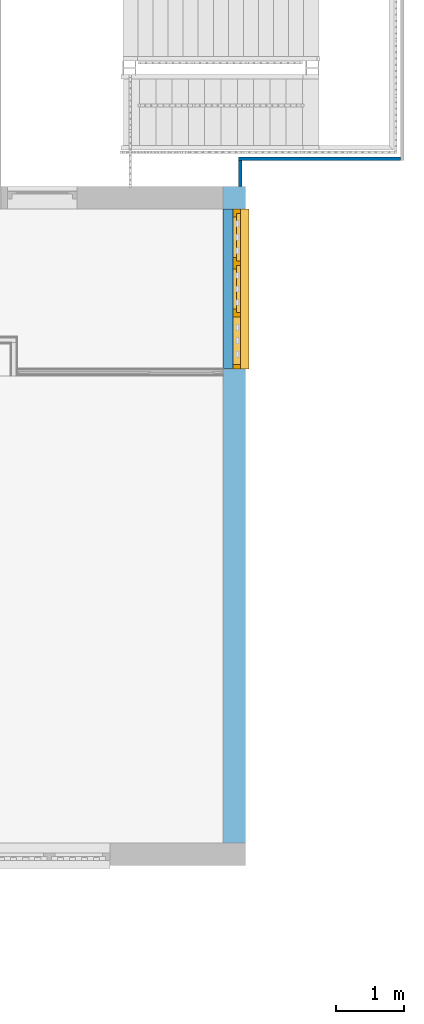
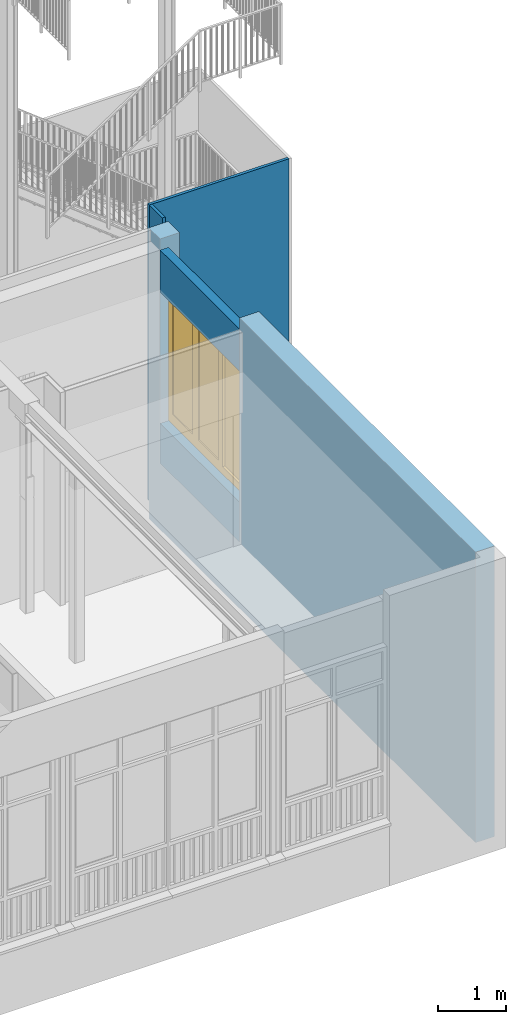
# One storey, part 96 of 135: 4 walls, 1 window, 1 opening, plus 1 element that does not belong to this part.
"""IFC2X3 building model written with IfcOpenShell, lengths in millimetres."""

from ifc_helpers import new_model, entity, si_unit, converted_unit, derived_unit, money_unit, direction, frame, origin_with_axes, place, context, subcontext, project, spatial, open_shell, faceted_brep, surface_model, material, type_object, element, fill, save


model = new_model("IFC2X3")

# Units and contexts
model_context = context("Model", 3, precision=0.01, world=origin_with_axes(), true_north=direction((0.0, 1.0)))
body_context = subcontext(model_context, "Body", "Model", "MODEL_VIEW")
ifc_project = project(units=[si_unit("LENGTHUNIT", "METRE", prefix="MILLI"), si_unit("AREAUNIT", "SQUARE_METRE"), si_unit("VOLUMEUNIT", "CUBIC_METRE"), converted_unit("PLANEANGLEUNIT", "DEGREE", entity("IfcPlaneAngleMeasure", 0.0174532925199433), si_unit("PLANEANGLEUNIT", "RADIAN"), dimensions=[0, 0, 0, 0, 0, 0, 0]), money_unit("EUR"), converted_unit("TIMEUNIT", "Year", entity("IfcTimeMeasure", 31557600.0), si_unit("TIMEUNIT", "SECOND"), dimensions=[0, 0, 1, 0, 0, 0, 0]), si_unit("MASSUNIT", "GRAM", prefix="KILO"), si_unit("THERMODYNAMICTEMPERATUREUNIT", "DEGREE_CELSIUS"), si_unit("LUMINOUSINTENSITYUNIT", "LUMEN"), si_unit("ENERGYUNIT", "JOULE", prefix="MEGA"), derived_unit("THERMALCONDUCTANCEUNIT", [(si_unit("POWERUNIT", "WATT"), 1), (si_unit("LENGTHUNIT", "METRE"), -1), (si_unit("THERMODYNAMICTEMPERATUREUNIT", "KELVIN"), -1)]), derived_unit("SPECIFICHEATCAPACITYUNIT", [(si_unit("ENERGYUNIT", "JOULE"), 1), (si_unit("MASSUNIT", "GRAM", prefix="KILO"), -1), (si_unit("THERMODYNAMICTEMPERATUREUNIT", "KELVIN"), -1)]), derived_unit("MASSDENSITYUNIT", [(si_unit("MASSUNIT", "GRAM", prefix="KILO"), 1), (si_unit("VOLUMEUNIT", "CUBIC_METRE"), -1)])], contexts=[model_context])

# Site, building, storey
site_placement = place(None, origin_with_axes())
site = spatial("IfcSite", under=ifc_project, at=site_placement, Name="Site", CompositionType="ELEMENT")
building_placement = place(site_placement, origin_with_axes())
building = spatial("IfcBuilding", under=site, at=building_placement, Name="Naam gebouw", CompositionType="ELEMENT")
storey_placement = place(building_placement, origin_with_axes())
storey = spatial("IfcBuildingStorey", under=building, at=storey_placement, Name="Begane grond N", CompositionType="ELEMENT", Elevation=0.0)

# Wall, opening, window
ifc_material_1 = material(Name="ALG - CONSTRUCTIEF")
wall_type_1 = type_object("IfcWallType", Name="ALG - CONSTRUCTIEF 330", PredefinedType="NOTDEFINED")
wall_1_placement = place(storey_placement, frame((57599.99999999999, 20655.9124251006, -1200.0), z_axis=(0.0, 0.0, 1.0), x_axis=(0.0, -1.0, 0.0)))
wall_1 = element("IfcWall", 1, at=wall_1_placement, inside=storey, type_object=wall_type_1, material=ifc_material_1, Name="_Wand-x", context=body_context, shape_type="Brep", body=[
    faceted_brep([(329.9999999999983, 225.0000000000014, 1200.000000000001), (329.9999999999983, 225.0000000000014, 1120.000000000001), (329.9999999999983, 329.9999999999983, 1120.000000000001), (329.9999999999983, 329.9999999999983, 1200.000000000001), (329.9999999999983, 329.9999999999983, 5250.000000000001), (329.9999999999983, 0.0, 5250.000000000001), (329.9999999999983, 0.0, 1200.000000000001), (2684.999999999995, 225.0000000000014, 1200.000000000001), (2684.999999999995, 225.0000000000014, 1120.000000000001), (2684.999999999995, 329.9999999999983, 1120.000000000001), (2684.999999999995, 329.9999999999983, 1200.000000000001), (2684.999999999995, 329.9999999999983, 5250.000000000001), (9664.999999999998, 329.9999999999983, 5250.000000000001), (9664.999999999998, 329.9999999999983, 0.0), (0.0, 329.9999999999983, 0.0), (0.0, 329.9999999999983, 5250.000000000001), (0.0, 0.0, 5250.000000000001), (9664.999999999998, 0.0, 5250.000000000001), (2684.999999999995, 0.0, 5250.000000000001), (2684.999999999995, 0.0, 1200.000000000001), (0.0, 0.0, 0.0), (9664.999999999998, 0.0, 0.0)], [[[0, 1, 2, 3, 4, 5, 6]], [[0, 7, 8, 1]], [[9, 2, 1, 8]], [[9, 10, 11, 12, 13, 14, 15, 4, 3, 2]], [[4, 15, 16, 5]], [[17, 18, 19, 6, 5, 16, 20, 21]], [[7, 0, 6, 19]], [[10, 9, 8, 7, 19, 18, 11]], [[17, 12, 11, 18]], [[12, 17, 21, 13]], [[20, 14, 13, 21]], [[20, 16, 15, 14]]]),
])
opening_placement = place(wall_1_placement, frame((1507.499999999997, 0.0, 1200.000000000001), z_axis=(0.0, 0.0, 1.0), x_axis=(1.0, 0.0, 0.0)))
opening = element("IfcOpeningElement", 2, at=opening_placement, cuts=wall_1, Name="_Merk-009", context=body_context, shape_type="Brep", body=[
    faceted_brep([(1177.499999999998, 259.999999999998, 0.0), (1177.499999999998, 330.999999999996, 0.0), (1177.499999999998, 330.999999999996, 4090.0), (1177.499999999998, 259.999999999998, 4090.0), (1177.499999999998, -0.9999999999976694, 4090.0), (1177.499999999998, -0.9999999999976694, 0.0), (1177.499999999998, 225.0000000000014, 0.0), (1177.499999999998, 225.0000000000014, -80.00000000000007), (1177.499999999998, 330.999999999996, -80.00000000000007), (-1177.499999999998, 330.999999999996, 0.0), (-1177.499999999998, 330.999999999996, 4090.0), (-1177.499999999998, 330.999999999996, -80.00000000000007), (-1177.499999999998, 259.999999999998, 4090.0), (-1177.499999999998, -0.9999999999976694, 4090.0), (-1177.499999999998, -0.9999999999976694, 0.0), (-1177.499999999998, 225.0000000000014, 0.0), (-1177.499999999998, 225.0000000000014, -80.00000000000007), (-1177.499999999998, 259.999999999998, 0.0)], [[[0, 1, 2, 3]], [[1, 0, 3, 4, 5, 6, 7, 8]], [[9, 10, 2, 1, 8, 11]], [[3, 2, 10, 12, 13, 4]], [[13, 14, 5, 4]], [[15, 6, 5, 14]], [[6, 15, 16, 7]], [[7, 16, 11, 8]], [[9, 17, 12, 10]], [[17, 9, 11, 16, 15, 14, 13, 12]]]),
])
window_style = type_object("IfcWindowStyle", Name="R3 bl ol 26", ConstructionType="NOTDEFINED", OperationType="USERDEFINED", ParameterTakesPrecedence=False, Sizeable=False)
window_placement = place(opening_placement, frame((1177.499999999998, 0.0, 0.0), z_axis=(0.0, 0.0, 1.0), x_axis=(-1.0, 0.0, 0.0)))
window = element("IfcWindow", 3, at=window_placement, inside=storey, type_object=window_style, Name="_Merk-009", ObjectType="WINDOW", OverallHeight=3090.0, OverallWidth=2355.0, context=body_context, shape_type="SurfaceModel", body=[
    faceted_brep([(2354.999999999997, -225.0000000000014, 0.0), (0.0, -225.0000000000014, 0.0), (0.0, -240.000000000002, 0.0), (2354.999999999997, -240.000000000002, 0.0), (2354.999999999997, -225.0000000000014, -80.00000000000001), (0.0, -225.0000000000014, -79.99999999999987), (0.0, -345.7812500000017, -79.9999999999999), (0.0, -347.1209959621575, -74.9999999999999), (0.0, -350.7812499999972, -71.33974596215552), (0.0, -355.7812499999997, -69.99999999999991), (0.0, -360.7812500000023, -71.33974596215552), (0.0, -364.4415040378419, -74.9999999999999), (0.0, -365.7812499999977, -79.9999999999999), (0.0, -380.0000000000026, -79.9999999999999), (0.0, -380.0000000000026, -34.68577729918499), (0.0, -240.000000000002, -9.999999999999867), (2354.999999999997, -240.000000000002, -10.00000000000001), (2354.999999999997, -380.0000000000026, -34.68577729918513), (2354.999999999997, -380.0000000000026, -80.00000000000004), (2354.999999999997, -365.7812499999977, -80.00000000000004), (2354.999999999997, -364.441504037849, -75.00000000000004), (2354.999999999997, -360.7812500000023, -71.33974596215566), (2354.999999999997, -355.7812499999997, -70.00000000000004), (2354.999999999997, -350.7812500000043, -71.33974596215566), (2354.999999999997, -347.1209959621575, -75.00000000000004), (2354.999999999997, -345.7812500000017, -80.00000000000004)], [[[0, 1, 2, 3]], [[4, 5, 1, 0]], [[1, 5, 6, 7, 8, 9, 10, 11, 12, 13, 14, 15, 2]], [[3, 2, 15, 16]], [[0, 3, 16, 17, 18, 19, 20, 21, 22, 23, 24, 25, 4]], [[25, 6, 5, 4]], [[24, 7, 6, 25]], [[23, 8, 7, 24]], [[22, 9, 8, 23]], [[21, 10, 9, 22]], [[20, 11, 10, 21]], [[19, 12, 11, 20]], [[18, 13, 12, 19]], [[17, 14, 13, 18]], [[16, 15, 14, 17]]]),
    faceted_brep([(2305.0, -146.0000000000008, 3023.0), (2305.0, -200.0000000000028, 3023.0), (2287.999999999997, -200.0000000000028, 3023.0), (2287.999999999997, -260.0000000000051, 3023.0), (2354.999999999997, -260.0000000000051, 3023.0), (2354.999999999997, -146.0000000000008, 3023.0), (2305.0, -146.0000000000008, 833.0000000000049), (2305.0, -200.0000000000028, 833.0000000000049), (2287.999999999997, -200.0000000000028, 850.0000000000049), (2287.999999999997, -200.0000000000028, 833.0000000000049), (2287.999999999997, -259.999999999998, 850.0000000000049), (2287.999999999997, -259.999999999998, 783.0000000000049), (2287.999999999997, -259.999999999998, 66.99999999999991), (2354.999999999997, -259.999999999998, 66.99999999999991), (2354.999999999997, -146.0000000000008, 66.99999999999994), (2287.999999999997, -146.0000000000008, 66.99999999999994), (2287.999999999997, -146.0000000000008, 783.0000000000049), (2287.999999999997, -146.0000000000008, 833.0000000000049)], [[[0, 1, 2, 3, 4, 5]], [[1, 0, 6, 7]], [[8, 2, 1, 7, 9]], [[2, 8, 10, 3]], [[10, 11, 12, 13, 4, 3]], [[5, 4, 13, 14]], [[6, 0, 5, 14, 15, 16, 17]], [[6, 17, 9, 7]], [[9, 17, 16, 11, 10, 8]], [[15, 12, 11, 16]], [[14, 13, 12, 15]]]),
    faceted_brep([(829.6666666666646, -200.0000000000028, 3023.0), (812.6666666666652, -200.0000000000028, 3023.0), (812.6666666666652, -146.0000000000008, 3023.0), (762.6666666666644, -146.0000000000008, 3023.0), (762.6666666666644, -259.999999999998, 3023.0), (829.6666666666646, -259.999999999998, 3023.0), (829.6666666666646, -200.0000000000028, 850.0000000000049), (829.6666666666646, -200.0000000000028, 833.0000000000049), (812.6666666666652, -200.0000000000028, 833.0000000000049), (812.6666666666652, -146.0000000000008, 833.0000000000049), (829.6666666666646, -146.0000000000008, 833.0000000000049), (829.6666666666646, -146.0000000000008, 783.0000000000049), (829.6666666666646, -146.0000000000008, 66.99999999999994), (762.6666666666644, -146.0000000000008, 66.99999999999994), (762.6666666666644, -146.0000000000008, 783.0000000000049), (762.6666666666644, -146.0000000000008, 850.0000000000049), (762.6666666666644, -259.999999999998, 850.0000000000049), (829.6666666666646, -259.999999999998, 783.0000000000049), (829.6666666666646, -259.999999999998, 850.0000000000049), (762.6666666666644, -259.999999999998, 783.0000000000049), (762.6666666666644, -259.999999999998, 66.99999999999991), (829.6666666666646, -259.999999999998, 66.99999999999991)], [[[0, 1, 2, 3, 4, 5]], [[1, 0, 6, 7, 8]], [[9, 2, 1, 8]], [[9, 10, 11, 12, 13, 14, 15, 3, 2]], [[15, 16, 4, 3]], [[17, 18, 5, 4, 16, 19, 20, 21]], [[6, 0, 5, 18]], [[7, 6, 18, 17, 11, 10]], [[10, 9, 8, 7]], [[11, 17, 21, 12]], [[12, 21, 20, 13]], [[13, 20, 19, 14]], [[14, 19, 16, 15]]]),
    faceted_brep([(1592.333333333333, -200.0000000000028, 3023.0), (1575.333333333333, -200.0000000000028, 3023.0), (1575.333333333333, -146.0000000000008, 3023.0), (1542.333333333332, -146.0000000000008, 3023.0), (1542.333333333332, -200.0000000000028, 3023.0), (1525.333333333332, -200.0000000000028, 3023.0), (1525.333333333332, -259.999999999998, 3023.0), (1592.333333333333, -259.999999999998, 3023.0), (1592.333333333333, -200.0000000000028, 850.0000000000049), (1592.333333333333, -200.0000000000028, 833.0000000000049), (1575.333333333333, -200.0000000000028, 833.0000000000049), (1575.333333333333, -146.0000000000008, 833.0000000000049), (1592.333333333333, -146.0000000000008, 833.0000000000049), (1592.333333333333, -146.0000000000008, 783.0000000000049), (1592.333333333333, -146.0000000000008, 66.99999999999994), (1525.333333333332, -146.0000000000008, 66.99999999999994), (1525.333333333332, -146.0000000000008, 783.0000000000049), (1525.333333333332, -146.0000000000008, 833.0000000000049), (1542.333333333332, -146.0000000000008, 833.0000000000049), (1542.333333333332, -200.0000000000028, 833.0000000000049), (1525.333333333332, -200.0000000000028, 850.0000000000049), (1525.333333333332, -200.0000000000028, 833.0000000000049), (1525.333333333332, -259.999999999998, 850.0000000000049), (1525.333333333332, -259.999999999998, 783.0000000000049), (1525.333333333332, -259.999999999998, 66.99999999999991), (1592.333333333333, -259.999999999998, 66.99999999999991), (1592.333333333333, -259.999999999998, 783.0000000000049), (1592.333333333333, -259.999999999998, 850.0000000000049)], [[[0, 1, 2, 3, 4, 5, 6, 7]], [[1, 0, 8, 9, 10]], [[11, 2, 1, 10]], [[11, 12, 13, 14, 15, 16, 17, 18, 3, 2]], [[4, 3, 18, 19]], [[20, 5, 4, 19, 21]], [[5, 20, 22, 6]], [[7, 6, 22, 23, 24, 25, 26, 27]], [[8, 0, 7, 27]], [[9, 8, 27, 26, 13, 12]], [[12, 11, 10, 9]], [[13, 26, 25, 14]], [[14, 25, 24, 15]], [[15, 24, 23, 16]], [[21, 17, 16, 23, 22, 20]], [[18, 17, 21, 19]]]),
    faceted_brep([(1525.333333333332, -200.0000000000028, 850.0000000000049), (829.6666666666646, -200.0000000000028, 850.0000000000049), (829.6666666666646, -259.999999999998, 850.0000000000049), (1525.333333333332, -259.999999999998, 850.0000000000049), (829.6666666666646, -200.0000000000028, 833.0000000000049), (1525.333333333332, -200.0000000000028, 833.0000000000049), (829.6666666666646, -146.0000000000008, 833.0000000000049), (829.6666666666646, -146.0000000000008, 783.0000000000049), (829.6666666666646, -259.999999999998, 783.0000000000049), (1525.333333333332, -259.999999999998, 783.0000000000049), (1525.333333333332, -146.0000000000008, 783.0000000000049), (1525.333333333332, -146.0000000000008, 833.0000000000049)], [[[0, 1, 2, 3]], [[4, 1, 0, 5]], [[4, 6, 7, 8, 2, 1]], [[2, 8, 9, 3]], [[5, 0, 3, 9, 10, 11]], [[11, 6, 4, 5]], [[6, 11, 10, 7]], [[10, 9, 8, 7]]]),
    faceted_brep([(2287.999999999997, -200.0000000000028, 850.0000000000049), (1592.333333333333, -200.0000000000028, 850.0000000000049), (1592.333333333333, -259.999999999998, 850.0000000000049), (2287.999999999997, -259.999999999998, 850.0000000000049), (1592.333333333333, -200.0000000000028, 833.0000000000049), (2287.999999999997, -200.0000000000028, 833.0000000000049), (1592.333333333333, -146.0000000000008, 833.0000000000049), (1592.333333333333, -146.0000000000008, 783.0000000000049), (1592.333333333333, -259.999999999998, 783.0000000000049), (2287.999999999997, -259.999999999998, 783.0000000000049), (2287.999999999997, -146.0000000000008, 783.0000000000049), (2287.999999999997, -146.0000000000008, 833.0000000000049)], [[[0, 1, 2, 3]], [[4, 1, 0, 5]], [[4, 6, 7, 8, 2, 1]], [[9, 3, 2, 8]], [[5, 0, 3, 9, 10, 11]], [[11, 6, 4, 5]], [[6, 11, 10, 7]], [[10, 9, 8, 7]]]),
    faceted_brep([(2305.0, -146.0000000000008, 3023.0), (2305.0, -146.0000000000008, 3040.0), (1575.333333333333, -146.0000000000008, 3040.0), (1575.333333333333, -146.0000000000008, 3023.0), (1542.333333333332, -146.0000000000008, 3023.0), (1542.333333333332, -146.0000000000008, 3040.0), (812.6666666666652, -146.0000000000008, 3040.0), (812.6666666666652, -146.0000000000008, 3023.0), (762.6666666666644, -146.0000000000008, 3023.0), (67.00000000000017, -146.0000000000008, 3023.0), (0.0, -146.0000000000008, 3023.0), (0.0, -146.0000000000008, 3090.0), (2354.999999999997, -146.0000000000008, 3090.0), (2354.999999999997, -146.0000000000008, 3023.0), (2305.0, -200.0000000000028, 3023.0), (2305.0, -200.0000000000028, 3040.0), (1575.333333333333, -200.0000000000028, 3040.0), (1575.333333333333, -200.0000000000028, 3023.0), (1592.333333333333, -200.0000000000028, 3023.0), (1592.333333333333, -259.999999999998, 3023.0), (1525.333333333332, -259.999999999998, 3023.0), (1525.333333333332, -200.0000000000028, 3023.0), (1542.333333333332, -200.0000000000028, 3023.0), (1542.333333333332, -200.0000000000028, 3040.0), (812.6666666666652, -200.0000000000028, 3040.0), (812.6666666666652, -200.0000000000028, 3023.0), (829.6666666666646, -200.0000000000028, 3023.0), (829.6666666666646, -259.999999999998, 3023.0), (762.6666666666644, -259.999999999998, 3023.0), (67.00000000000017, -259.999999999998, 3023.0), (0.0, -259.999999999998, 3023.0), (0.0, -259.999999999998, 3090.0), (2354.999999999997, -260.0000000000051, 3090.0), (2354.999999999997, -260.0000000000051, 3023.0), (2287.999999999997, -260.0000000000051, 3023.0), (2287.999999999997, -200.0000000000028, 3023.0)], [[[0, 1, 2, 3, 4, 5, 6, 7, 8, 9, 10, 11, 12, 13]], [[1, 0, 14, 15]], [[2, 1, 15, 16]], [[3, 2, 16, 17]], [[17, 18, 19, 20, 21, 22, 4, 3]], [[5, 4, 22, 23]], [[6, 5, 23, 24]], [[7, 6, 24, 25]], [[25, 26, 27, 28, 8, 7]], [[8, 28, 29, 9]], [[9, 29, 30, 10]], [[10, 30, 31, 11]], [[11, 31, 32, 12]], [[12, 32, 33, 13]], [[14, 0, 13, 33, 34, 35]], [[18, 17, 16, 15, 14, 35]], [[18, 35, 34, 19]], [[20, 19, 34, 33, 32, 31, 30, 29, 28, 27]], [[26, 21, 20, 27]], [[26, 25, 24, 23, 22, 21]]]),
    faceted_brep([(67.00000000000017, -259.999999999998, 66.99999999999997), (0.0, -259.999999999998, 66.99999999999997), (0.0, -146.0000000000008, 67.0), (67.00000000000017, -146.0000000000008, 67.0), (67.00000000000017, -259.999999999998, 783.0000000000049), (67.00000000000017, -259.999999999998, 850.0000000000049), (67.00000000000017, -259.999999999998, 3023.0), (0.0, -259.999999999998, 3023.0), (0.0, -146.0000000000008, 3023.0), (67.00000000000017, -146.0000000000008, 3023.0), (67.00000000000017, -146.0000000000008, 850.0000000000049), (67.00000000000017, -146.0000000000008, 783.0000000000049)], [[[0, 1, 2, 3]], [[0, 4, 5, 6, 7, 1]], [[1, 7, 8, 2]], [[3, 2, 8, 9, 10, 11]], [[4, 0, 3, 11]], [[5, 4, 11, 10]], [[6, 5, 10, 9]], [[7, 6, 9, 8]]]),
    faceted_brep([(762.6666666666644, -259.999999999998, 850.0000000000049), (762.6666666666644, -259.999999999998, 783.0000000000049), (762.6666666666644, -146.0000000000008, 783.0000000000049), (762.6666666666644, -146.0000000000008, 850.0000000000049), (67.00000000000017, -259.999999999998, 850.0000000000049), (67.00000000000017, -259.999999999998, 783.0000000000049), (67.00000000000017, -146.0000000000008, 783.0000000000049), (67.00000000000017, -146.0000000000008, 850.0000000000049)], [[[0, 1, 2, 3]], [[0, 4, 5, 1]], [[1, 5, 6, 2]], [[3, 2, 6, 7]], [[4, 0, 3, 7]], [[5, 4, 7, 6]]]),
    faceted_brep([(2287.999999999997, -259.999999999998, 66.99999999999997), (2354.999999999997, -259.999999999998, 66.99999999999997), (2354.999999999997, -146.0000000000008, 67.0), (2287.999999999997, -146.0000000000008, 67.0), (1592.333333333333, -259.999999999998, 66.99999999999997), (1525.333333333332, -259.999999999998, 66.99999999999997), (829.6666666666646, -259.999999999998, 66.99999999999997), (762.6666666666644, -259.999999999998, 66.99999999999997), (67.00000000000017, -259.999999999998, 66.99999999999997), (0.0, -259.999999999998, 66.99999999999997), (0.0, -259.999999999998, 0.0), (2354.999999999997, -259.999999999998, 0.0), (2354.999999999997, -146.0000000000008, 0.0), (0.0, -146.0000000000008, 0.0), (0.0, -146.0000000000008, 67.0), (67.00000000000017, -146.0000000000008, 67.0), (762.6666666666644, -146.0000000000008, 67.0), (829.6666666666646, -146.0000000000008, 67.0), (1525.333333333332, -146.0000000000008, 67.0), (1592.333333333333, -146.0000000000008, 67.0)], [[[0, 1, 2, 3]], [[0, 4, 5, 6, 7, 8, 9, 10, 11, 1]], [[1, 11, 12, 2]], [[3, 2, 12, 13, 14, 15, 16, 17, 18, 19]], [[4, 0, 3, 19]], [[5, 4, 19, 18]], [[6, 5, 18, 17]], [[7, 6, 17, 16]], [[8, 7, 16, 15]], [[9, 8, 15, 14]], [[10, 9, 14, 13]], [[11, 10, 13, 12]]]),
    faceted_brep([(2238.0, -200.0000000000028, 2972.999999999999), (2305.0, -200.0000000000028, 2972.999999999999), (2305.0, -146.0000000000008, 2972.999999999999), (2238.0, -146.0000000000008, 2972.999999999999), (2238.0, -200.0000000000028, 900.0000000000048), (2305.0, -200.0000000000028, 900.0000000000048), (2305.0, -146.0000000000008, 900.0000000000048), (2238.0, -146.0000000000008, 900.0000000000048)], [[[0, 1, 2, 3]], [[0, 4, 5, 1]], [[1, 5, 6, 2]], [[3, 2, 6, 7]], [[4, 0, 3, 7]], [[5, 4, 7, 6]]]),
    faceted_brep([(1642.333333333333, -200.0000000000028, 900.0000000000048), (1575.333333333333, -200.0000000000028, 900.0000000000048), (1575.333333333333, -146.0000000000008, 900.0000000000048), (1642.333333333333, -146.0000000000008, 900.0000000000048), (1642.333333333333, -200.0000000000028, 2972.999999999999), (1575.333333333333, -200.0000000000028, 2972.999999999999), (1575.333333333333, -146.0000000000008, 2972.999999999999), (1642.333333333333, -146.0000000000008, 2972.999999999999)], [[[0, 1, 2, 3]], [[0, 4, 5, 1]], [[1, 5, 6, 2]], [[3, 2, 6, 7]], [[4, 0, 3, 7]], [[5, 4, 7, 6]]]),
    faceted_brep([(1575.333333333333, -200.0000000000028, 833.0000000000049), (1575.333333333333, -200.0000000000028, 900.0000000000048), (1575.333333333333, -146.0000000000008, 900.0000000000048), (1575.333333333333, -146.0000000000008, 833.0000000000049), (2305.0, -200.0000000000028, 833.0000000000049), (2305.0, -200.0000000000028, 900.0000000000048), (2238.0, -200.0000000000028, 900.0000000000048), (1642.333333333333, -200.0000000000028, 900.0000000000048), (1642.333333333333, -146.0000000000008, 900.0000000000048), (2238.0, -146.0000000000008, 900.0000000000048), (2305.0, -146.0000000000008, 900.0000000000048), (2305.0, -146.0000000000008, 833.0000000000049)], [[[0, 1, 2, 3]], [[0, 4, 5, 6, 7, 1]], [[1, 7, 8, 2]], [[3, 2, 8, 9, 10, 11]], [[4, 0, 3, 11]], [[5, 4, 11, 10]], [[6, 5, 10, 9]], [[7, 6, 9, 8]]]),
    faceted_brep([(2305.0, -200.0000000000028, 3039.999999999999), (2305.0, -200.0000000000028, 2972.999999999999), (2305.0, -146.0000000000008, 2972.999999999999), (2305.0, -146.0000000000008, 3039.999999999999), (1575.333333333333, -200.0000000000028, 3039.999999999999), (1575.333333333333, -200.0000000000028, 2972.999999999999), (1642.333333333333, -200.0000000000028, 2972.999999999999), (2238.0, -200.0000000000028, 2972.999999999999), (2238.0, -146.0000000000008, 2972.999999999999), (1642.333333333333, -146.0000000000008, 2972.999999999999), (1575.333333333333, -146.0000000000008, 2972.999999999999), (1575.333333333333, -146.0000000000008, 3039.999999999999)], [[[0, 1, 2, 3]], [[0, 4, 5, 6, 7, 1]], [[1, 7, 8, 2]], [[3, 2, 8, 9, 10, 11]], [[4, 0, 3, 11]], [[5, 4, 11, 10]], [[6, 5, 10, 9]], [[7, 6, 9, 8]]]),
    surface_model("IfcShellBasedSurfaceModel", [(2238.0, -182.9999999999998, 900.0000000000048), (2238.0, -182.9999999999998, 2972.999999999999), (1642.333333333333, -182.9999999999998, 2972.999999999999), (1642.333333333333, -182.9999999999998, 900.0000000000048)], [open_shell([[[0, 1, 2, 3]]])]),
    surface_model("IfcShellBasedSurfaceModel", [(2238.0, -163.0000000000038, 900.0000000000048), (1642.333333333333, -163.0000000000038, 900.0000000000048), (1642.333333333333, -163.0000000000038, 2972.999999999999), (2238.0, -163.0000000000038, 2972.999999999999)], [open_shell([[[0, 1, 2, 3]]])]),
    faceted_brep([(1475.333333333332, -200.0000000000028, 2972.999999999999), (1542.333333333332, -200.0000000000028, 2972.999999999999), (1542.333333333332, -146.0000000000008, 2972.999999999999), (1475.333333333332, -146.0000000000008, 2972.999999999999), (1475.333333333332, -200.0000000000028, 900.0000000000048), (1542.333333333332, -200.0000000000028, 900.0000000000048), (1542.333333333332, -146.0000000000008, 900.0000000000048), (1475.333333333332, -146.0000000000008, 900.0000000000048)], [[[0, 1, 2, 3]], [[0, 4, 5, 1]], [[1, 5, 6, 2]], [[3, 2, 6, 7]], [[4, 0, 3, 7]], [[5, 4, 7, 6]]]),
    faceted_brep([(879.6666666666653, -200.0000000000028, 900.0000000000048), (812.6666666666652, -200.0000000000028, 900.0000000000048), (812.6666666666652, -146.0000000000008, 900.0000000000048), (879.6666666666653, -146.0000000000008, 900.0000000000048), (879.6666666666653, -200.0000000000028, 2972.999999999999), (812.6666666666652, -200.0000000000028, 2972.999999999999), (812.6666666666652, -146.0000000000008, 2972.999999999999), (879.6666666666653, -146.0000000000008, 2972.999999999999)], [[[0, 1, 2, 3]], [[0, 4, 5, 1]], [[1, 5, 6, 2]], [[3, 2, 6, 7]], [[4, 0, 3, 7]], [[5, 4, 7, 6]]]),
    faceted_brep([(812.6666666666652, -200.0000000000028, 833.0000000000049), (812.6666666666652, -200.0000000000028, 900.0000000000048), (812.6666666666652, -146.0000000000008, 900.0000000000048), (812.6666666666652, -146.0000000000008, 833.0000000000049), (1542.333333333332, -200.0000000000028, 833.0000000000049), (1542.333333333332, -200.0000000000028, 900.0000000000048), (1475.333333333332, -200.0000000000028, 900.0000000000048), (879.6666666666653, -200.0000000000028, 900.0000000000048), (879.6666666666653, -146.0000000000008, 900.0000000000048), (1475.333333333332, -146.0000000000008, 900.0000000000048), (1542.333333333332, -146.0000000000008, 900.0000000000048), (1542.333333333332, -146.0000000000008, 833.0000000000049)], [[[0, 1, 2, 3]], [[0, 4, 5, 6, 7, 1]], [[1, 7, 8, 2]], [[3, 2, 8, 9, 10, 11]], [[4, 0, 3, 11]], [[5, 4, 11, 10]], [[6, 5, 10, 9]], [[7, 6, 9, 8]]]),
    faceted_brep([(1542.333333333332, -200.0000000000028, 3039.999999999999), (1542.333333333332, -200.0000000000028, 2972.999999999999), (1542.333333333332, -146.0000000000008, 2972.999999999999), (1542.333333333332, -146.0000000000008, 3039.999999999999), (812.6666666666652, -200.0000000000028, 3039.999999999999), (812.6666666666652, -200.0000000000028, 2972.999999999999), (879.6666666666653, -200.0000000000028, 2972.999999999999), (1475.333333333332, -200.0000000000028, 2972.999999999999), (1475.333333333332, -146.0000000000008, 2972.999999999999), (879.6666666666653, -146.0000000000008, 2972.999999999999), (812.6666666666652, -146.0000000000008, 2972.999999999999), (812.6666666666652, -146.0000000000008, 3039.999999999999)], [[[0, 1, 2, 3]], [[0, 4, 5, 6, 7, 1]], [[1, 7, 8, 2]], [[3, 2, 8, 9, 10, 11]], [[4, 0, 3, 11]], [[5, 4, 11, 10]], [[6, 5, 10, 9]], [[7, 6, 9, 8]]]),
    surface_model("IfcShellBasedSurfaceModel", [(1475.333333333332, -182.9999999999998, 900.0000000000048), (1475.333333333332, -182.9999999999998, 2972.999999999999), (879.6666666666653, -182.9999999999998, 2972.999999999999), (879.6666666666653, -182.9999999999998, 900.0000000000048)], [open_shell([[[0, 1, 2, 3]]])]),
    surface_model("IfcShellBasedSurfaceModel", [(1475.333333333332, -163.0000000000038, 900.0000000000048), (879.6666666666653, -163.0000000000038, 900.0000000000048), (879.6666666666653, -163.0000000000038, 2972.999999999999), (1475.333333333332, -163.0000000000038, 2972.999999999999)], [open_shell([[[0, 1, 2, 3]]])]),
    surface_model("IfcShellBasedSurfaceModel", [(762.6666666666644, -210.0000000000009, 850.0000000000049), (762.6666666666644, -210.0000000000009, 3023.0), (67.00000000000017, -210.0000000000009, 3023.0), (67.00000000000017, -210.0000000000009, 850.0000000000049)], [open_shell([[[0, 1, 2, 3]]])]),
    surface_model("IfcShellBasedSurfaceModel", [(762.6666666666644, -189.9999999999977, 850.0000000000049), (67.00000000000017, -189.9999999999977, 850.0000000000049), (67.00000000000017, -189.9999999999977, 3023.0), (762.6666666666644, -189.9999999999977, 3023.0)], [open_shell([[[0, 1, 2, 3]]])]),
    faceted_brep([(2287.999999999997, -200.0000000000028, 67.0), (1592.333333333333, -200.0000000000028, 67.0), (1592.333333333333, -146.0000000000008, 67.0), (2287.999999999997, -146.0000000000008, 67.0), (2287.999999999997, -200.0000000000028, 783.0000000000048), (1592.333333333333, -200.0000000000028, 783.0000000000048), (1592.333333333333, -146.0000000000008, 783.0000000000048), (2287.999999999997, -146.0000000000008, 783.0000000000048)], [[[0, 1, 2, 3]], [[0, 4, 5, 1]], [[1, 5, 6, 2]], [[3, 2, 6, 7]], [[4, 0, 3, 7]], [[5, 4, 7, 6]]]),
    faceted_brep([(1525.333333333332, -200.0000000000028, 67.0), (829.6666666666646, -200.0000000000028, 67.0), (829.6666666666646, -146.0000000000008, 67.0), (1525.333333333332, -146.0000000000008, 67.0), (1525.333333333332, -200.0000000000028, 783.0000000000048), (829.6666666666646, -200.0000000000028, 783.0000000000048), (829.6666666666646, -146.0000000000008, 783.0000000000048), (1525.333333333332, -146.0000000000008, 783.0000000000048)], [[[0, 1, 2, 3]], [[0, 4, 5, 1]], [[1, 5, 6, 2]], [[3, 2, 6, 7]], [[4, 0, 3, 7]], [[5, 4, 7, 6]]]),
    faceted_brep([(762.6666666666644, -200.0000000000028, 67.0), (67.00000000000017, -200.0000000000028, 67.0), (67.00000000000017, -146.0000000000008, 67.0), (762.6666666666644, -146.0000000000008, 67.0), (762.6666666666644, -200.0000000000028, 783.0000000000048), (67.00000000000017, -200.0000000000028, 783.0000000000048), (67.00000000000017, -146.0000000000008, 783.0000000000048), (762.6666666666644, -146.0000000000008, 783.0000000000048)], [[[0, 1, 2, 3]], [[0, 4, 5, 1]], [[1, 5, 6, 2]], [[3, 2, 6, 7]], [[4, 0, 3, 7]], [[5, 4, 7, 6]]]),
])
fill(opening, window)

# Walls
wall_type_2 = type_object("IfcWallType", Name="ALG - CONSTRUCTIEF 146", PredefinedType="NOTDEFINED")
wall_2_placement = place(storey_placement, frame((57599.99999999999, 20325.9124251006, 3090.000000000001), z_axis=(0.0, 0.0, 1.0), x_axis=(0.0, -1.0, 0.0)))
element("IfcWall", 4, at=wall_2_placement, inside=storey, type_object=wall_type_2, material=ifc_material_1, Name="_Wand-x", context=body_context, shape_type="Brep", body=[
    faceted_brep([(0.0, 146.0000000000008, 0.0), (2349.999999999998, 146.0000000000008, 0.0), (2349.999999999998, 0.0, 0.0), (0.0, 0.0, 0.0), (0.0, 146.0000000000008, 759.9999999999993), (2349.999999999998, 146.0000000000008, 759.9999999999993), (2349.999999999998, 0.0, 759.9999999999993), (0.0, 0.0, 759.9999999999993)], [[[0, 1, 2, 3]], [[4, 5, 1, 0]], [[2, 1, 5, 6]], [[3, 2, 6, 7]], [[4, 0, 3, 7]], [[7, 6, 5, 4]]]),
])
wall_3_placement = place(storey_placement, frame((57599.99999999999, 20325.9124251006, 0.0), z_axis=(0.0, 0.0, 1.0), x_axis=(0.0, -1.0, 0.0)))
element("IfcWall", 5, at=wall_3_placement, inside=storey, type_object=wall_type_2, material=ifc_material_1, Name="_Wand-x", context=body_context, shape_type="Brep", body=[
    faceted_brep([(0.0, 146.0000000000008, 0.0), (2349.999999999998, 146.0000000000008, 0.0), (2349.999999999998, 0.0, 0.0), (0.0, 0.0, 0.0), (0.0, 146.0000000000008, 720.0000000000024), (2349.999999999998, 146.0000000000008, 720.0000000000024), (2349.999999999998, 0.0, 720.0000000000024), (0.0, 0.0, 720.0000000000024)], [[[0, 1, 2, 3]], [[4, 5, 1, 0]], [[2, 1, 5, 6]], [[3, 2, 6, 7]], [[4, 0, 3, 7]], [[7, 6, 5, 4]]]),
])
ifc_material_2 = material(Name="ALG - ONTWERPWAND")
wall_type_3 = type_object("IfcWallType", Name="ALG - ONTWERPWAND 50", PredefinedType="NOTDEFINED")
wall_4_placement = place(storey_placement, frame((57830.0, 21090.9124251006, -1200.0), z_axis=(0.0, 0.0, 1.0), x_axis=(1.0, 0.0, 0.0)))
element("IfcWall", 6, at=wall_4_placement, inside=storey, type_object=wall_type_3, material=ifc_material_2, Name="_Wand-x", context=body_context, shape_type="Brep", body=[
    faceted_brep([(2384.999999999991, -50.00000000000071, 5350.000000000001), (2384.999999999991, 0.0, 5350.000000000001), (0.0, 0.0, 5350.000000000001), (0.0, -50.00000000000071, 5350.000000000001), (2384.999999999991, -50.00000000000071, 0.0), (2384.999999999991, 0.0, 0.0), (0.0, 0.0, 0.0), (0.0, -50.00000000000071, 0.0)], [[[0, 1, 2, 3]], [[1, 0, 4, 5]], [[1, 5, 6, 2]], [[7, 3, 2, 6]], [[4, 0, 3, 7]], [[5, 4, 7, 6]]]),
])
wall_5_placement = place(storey_placement, frame((57830.0, 20655.9124251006, -1200.0), z_axis=(0.0, 0.0, 1.0), x_axis=(0.0, 1.0, 0.0)))
element("IfcWall", 7, at=wall_5_placement, inside=storey, type_object=wall_type_3, material=ifc_material_2, Name="_Wand-x", context=body_context, shape_type="Brep", body=[
    faceted_brep([(384.999999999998, -49.99999999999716, 5350.000000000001), (384.999999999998, 0.0, 5350.000000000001), (0.0, 0.0, 5350.000000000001), (0.0, -49.99999999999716, 5350.000000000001), (384.999999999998, -49.99999999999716, 0.0), (384.999999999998, 0.0, 0.0), (0.0, 0.0, 0.0), (0.0, -49.99999999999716, 0.0)], [[[0, 1, 2, 3]], [[1, 0, 4, 5]], [[1, 5, 6, 2]], [[7, 3, 2, 6]], [[4, 0, 3, 7]], [[5, 4, 7, 6]]]),
])

save(model, "model.ifc")
